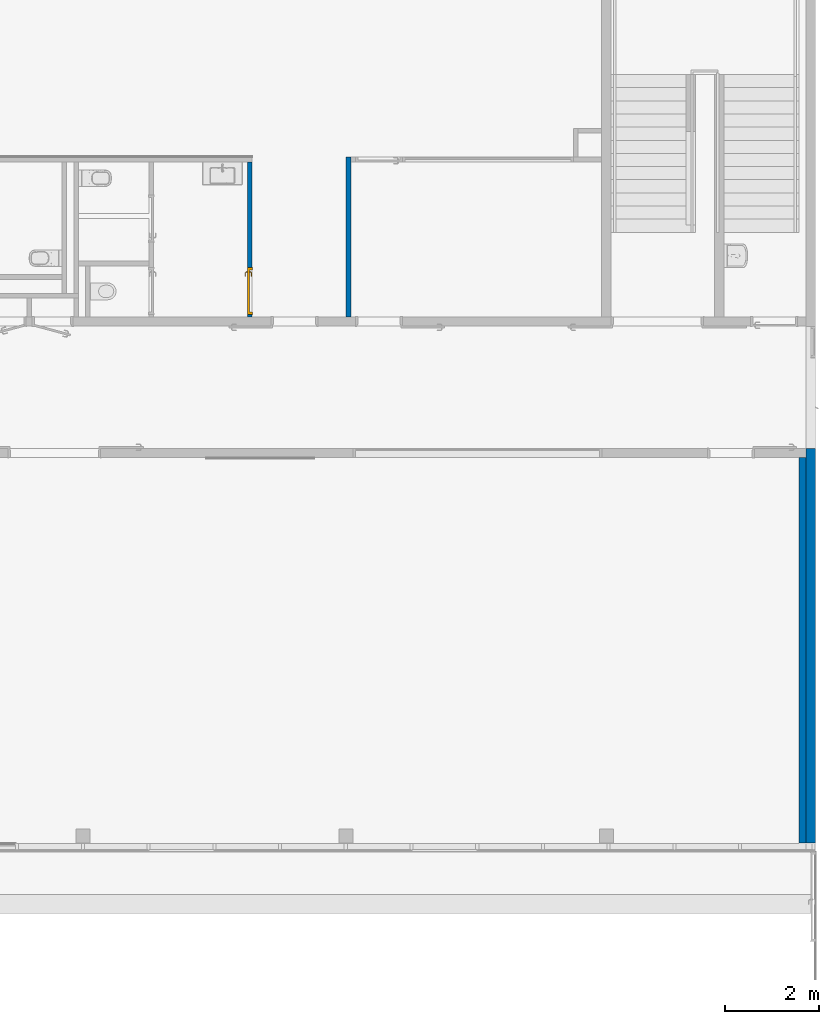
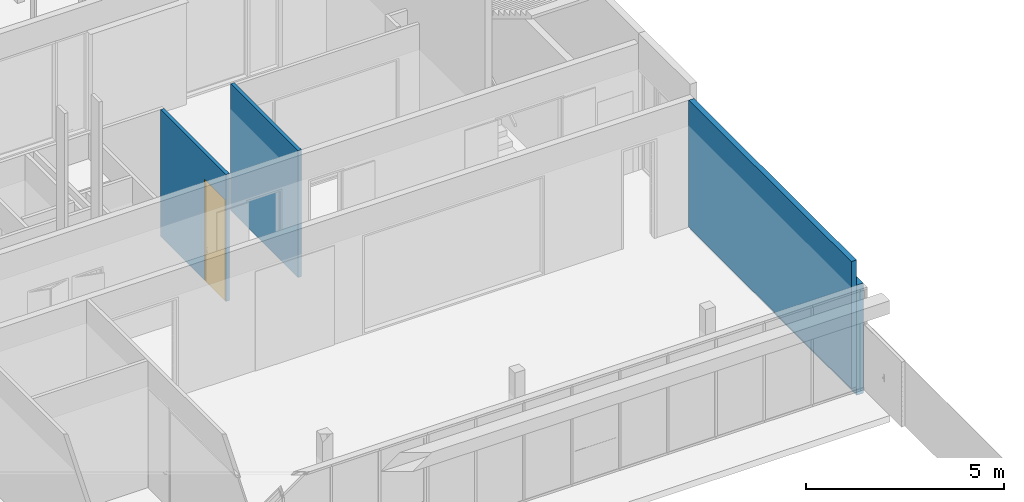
# One storey, part 171 of 240: 4 walls, 1 door, 1 opening.
"""IFC2X3 building model written with IfcOpenShell, lengths in centimetres."""

from ifc_helpers import new_model, entity, si_unit, converted_unit, derived_unit, direction, frame, frame_2d, origin, place, context, subcontext, project, spatial, polyline, rectangle, extrude, clip, bounded_halfspace, faceted_brep, source, transform, mapped, material, material_list, layer, layer_set, layer_usage, type_object, type_shapes, element, fill, save


model = new_model("IFC2X3")

# Units and contexts
model_context = context("Model", 3, precision=0.001, world=origin(), true_north=direction((6.12303176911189e-17, 1.0)))
body_context = subcontext(model_context, "Body", "Model", "MODEL_VIEW")
ifc_project = project(units=[si_unit("LENGTHUNIT", "METRE", prefix="CENTI"), si_unit("AREAUNIT", "SQUARE_METRE"), si_unit("VOLUMEUNIT", "CUBIC_METRE"), converted_unit("PLANEANGLEUNIT", "DEGREE", entity("IfcRatioMeasure", 0.0174532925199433), si_unit("PLANEANGLEUNIT", "RADIAN"), dimensions=[0, 0, 0, 0, 0, 0, 0]), si_unit("MASSUNIT", "GRAM", prefix="KILO"), derived_unit("MASSDENSITYUNIT", [(si_unit("MASSUNIT", "GRAM", prefix="KILO"), 1), (si_unit("LENGTHUNIT", "METRE"), -3)]), si_unit("TIMEUNIT", "SECOND"), si_unit("FREQUENCYUNIT", "HERTZ"), si_unit("THERMODYNAMICTEMPERATUREUNIT", "DEGREE_CELSIUS"), derived_unit("THERMALTRANSMITTANCEUNIT", [(si_unit("MASSUNIT", "GRAM", prefix="KILO"), 1), (si_unit("THERMODYNAMICTEMPERATUREUNIT", "KELVIN"), -1), (si_unit("TIMEUNIT", "SECOND"), -3)]), derived_unit("VOLUMETRICFLOWRATEUNIT", [(si_unit("LENGTHUNIT", "METRE"), 3), (si_unit("TIMEUNIT", "SECOND"), -1)]), si_unit("ELECTRICCURRENTUNIT", "AMPERE"), si_unit("ELECTRICVOLTAGEUNIT", "VOLT"), si_unit("POWERUNIT", "WATT"), si_unit("FORCEUNIT", "NEWTON", prefix="KILO"), si_unit("ILLUMINANCEUNIT", "LUX"), si_unit("LUMINOUSFLUXUNIT", "LUMEN"), si_unit("LUMINOUSINTENSITYUNIT", "CANDELA"), derived_unit("USERDEFINED", [(si_unit("MASSUNIT", "GRAM", prefix="KILO"), -1), (si_unit("LENGTHUNIT", "METRE"), -2), (si_unit("TIMEUNIT", "SECOND"), 3), (si_unit("LUMINOUSFLUXUNIT", "LUMEN"), 1)]), derived_unit("LINEARVELOCITYUNIT", [(si_unit("LENGTHUNIT", "METRE"), 1), (si_unit("TIMEUNIT", "SECOND"), -1)]), si_unit("PRESSUREUNIT", "PASCAL"), derived_unit("USERDEFINED", [(si_unit("LENGTHUNIT", "METRE"), -2), (si_unit("MASSUNIT", "GRAM", prefix="KILO"), 1), (si_unit("TIMEUNIT", "SECOND"), -2)])], contexts=[model_context])

# Site, building, storey
site_placement = place(None, frame((-2781.94577612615, 7442.24238424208, 0.0)))
site = spatial("IfcSite", under=ifc_project, at=site_placement, Name="Default", CompositionType="ELEMENT")
building_placement = place(site_placement, origin())
building = spatial("IfcBuilding", under=site, at=building_placement, CompositionType="ELEMENT")
storey_placement = place(building_placement, origin())
storey = spatial("IfcBuildingStorey", under=building, at=storey_placement, Name="N00 - COO", CompositionType="ELEMENT", Elevation=0.0)

# Walls
ifc_material_1 = material(Name="00 - Isolant")
ifc_layer_1 = layer(ifc_material_1, 14.0)
ifc_material_2 = material(Name="01 - Enduit/Plâtre")
ifc_layer_2 = layer(ifc_material_2, 1.3)
ifc_layer_set_1 = layer_set([ifc_layer_1, ifc_layer_2], Name="Mur de base:04 - Parement -  isolant 14 cm + BA13")
ifc_layer_usage_1 = layer_usage(ifc_layer_set_1, "AXIS2", "NEGATIVE", 7.65)
wall_type_1 = type_object("IfcWallType", Name="Mur de base:04 - Parement -  isolant 14 cm + BA13", PredefinedType="STANDARD", material=ifc_layer_set_1)
wall_1_placement = place(storey_placement, frame((-417.649882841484, -2210.15656731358, 0.0), z_axis=(0.0, 0.0, 1.0), x_axis=(0.0, -1.0, 0.0)))
element("IfcWallStandardCase", 1, at=wall_1_placement, inside=storey, type_object=wall_type_1, material=ifc_layer_usage_1, Name="Mur de base:04 - Parement -  isolant 14 cm + BA13", ObjectType="Mur de base:04 - Parement -  isolant 14 cm + BA13", context=body_context, shape_type="SweptSolid", body=[
    extrude(rectangle(XDim=820.156932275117, YDim=15.3, at=frame_2d((410.078466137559, -1.86517468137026e-14), x_axis=(-1.0, 0.0))), origin(), (0.0, 0.0, 1.0), 391.0),
])
ifc_material_3 = material(Name="01 - Maçonnerie")
ifc_layer_3 = layer(ifc_material_3, 20.0)
ifc_layer_set_2 = layer_set([ifc_layer_3], Name="Mur de base:04 - Structure - béton - 20cm")
ifc_layer_usage_2 = layer_usage(ifc_layer_set_2, "AXIS2", "NEGATIVE", 10.0)
wall_type_2 = type_object("IfcWallType", Name="Mur de base:04 - Structure - béton - 20cm", PredefinedType="STANDARD", material=ifc_layer_set_2)
wall_2_placement = place(building_placement, frame((-399.999882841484, -2190.15656731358, -26.0), z_axis=(0.0, 0.0, 1.0), x_axis=(0.0, -1.0, 0.0)))
element("IfcWallStandardCase", 2, at=wall_2_placement, inside=storey, type_object=wall_type_2, material=ifc_layer_usage_2, Name="Mur de base:04 - Structure - béton - 20cm", ObjectType="Mur de base:04 - Structure - béton - 20cm", context=body_context, shape_type="Clipping", body=[
    clip(extrude(rectangle(XDim=840.156932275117, YDim=20.0, at=frame_2d((420.078466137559, -1.24344978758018e-14), x_axis=(-1.0, 0.0))), origin(), (0.0, 0.0, 1.0), 339.0), bounded_halfspace(frame((0.0, -10.0, 339.0), z_axis=(0.0, 0.0, -1.0), x_axis=(0.0, -1.0, 0.0)), True, frame((0.0, -10.0, 339.0)), polyline([(0.0, 0.0), (840.156932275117, 0.0), (840.156932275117, 20.0), (0.0, 20.0), (0.0, 0.0)]))),
])
ifc_layer_4 = layer(ifc_material_2, 1.3)
ifc_layer_5 = layer(ifc_material_1, 7.4)
ifc_layer_6 = layer(ifc_material_2, 1.3)
ifc_layer_set_3 = layer_set([ifc_layer_4, ifc_layer_5, ifc_layer_6], Name="Mur de base:06 - cloisons - Ba13 10cm")
ifc_layer_usage_3 = layer_usage(ifc_layer_set_3, "AXIS2", "NEGATIVE", 5.0)
wall_type_3 = type_object("IfcWallType", Name="Mur de base:06 - cloisons - Ba13 10cm", PredefinedType="STANDARD", material=ifc_layer_set_3)
wall_3_placement = place(building_placement, frame((-1384.49988284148, -1910.07903364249, 0.0), z_axis=(0.0, 0.0, 1.0), x_axis=(0.0, 1.0, 0.0)))
element("IfcWallStandardCase", 3, at=wall_3_placement, inside=storey, type_object=wall_type_3, material=ifc_layer_usage_3, Name="Mur de base:06 - cloisons - Ba13 10cm", ObjectType="Mur de base:06 - cloisons - Ba13 10cm", context=body_context, shape_type="Clipping", body=[
    clip(extrude(rectangle(XDim=340.079033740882, YDim=9.99999999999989, at=frame_2d((170.039516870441, -5.77315972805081e-15), x_axis=(-1.0, 0.0))), origin(), (0.0, 0.0, 1.0), 391.0), bounded_halfspace(frame((0.0, -5.0, 391.0), z_axis=(0.0, 0.0, -1.0), x_axis=(1.0, 0.0, 0.0)), True, frame((0.0, -5.0, 391.0)), polyline([(0.0, 0.0), (330.079033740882, 0.0), (340.079033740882, 0.0), (340.079033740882, 10.0), (0.0, 10.0), (0.0, 0.0)]))),
])

# Wall, opening, door
ifc_layer_usage_4 = layer_usage(ifc_layer_set_3, "AXIS2", "NEGATIVE", 5.0)
wall_4_placement = place(building_placement, frame((-1594.49988284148, -1580.0, 0.0), z_axis=(0.0, 0.0, 1.0), x_axis=(0.0, -1.0, 0.0)))
wall_4 = element("IfcWallStandardCase", 4, at=wall_4_placement, inside=storey, type_object=wall_type_3, material=ifc_layer_usage_4, Name="Mur de base:06 - cloisons - Ba13 10cm", ObjectType="Mur de base:06 - cloisons - Ba13 10cm", context=body_context, shape_type="Clipping", body=[
    clip(extrude(rectangle(XDim=330.079033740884, YDim=9.99999999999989, at=frame_2d((165.039516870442, -3.33066907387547e-14), x_axis=(-1.0, 0.0))), origin(), (0.0, 0.0, 1.0), 391.0), bounded_halfspace(frame((0.0, -5.0, 391.0), z_axis=(0.0, 0.0, -1.0), x_axis=(-1.0, 0.0, 0.0)), True, frame((0.0, -5.0, 391.0)), polyline([(0.0, 0.0), (330.079033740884, 0.0), (330.079033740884, 10.0), (0.0, 10.0), (0.0, 0.0)]))),
])
opening_placement = place(wall_4_placement, frame((325.079033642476, 5.0, 0.0)))
opening = element("IfcOpeningElement", 5, at=opening_placement, cuts=wall_4, Name="Int. Simple:PP (0.93m x 3.06m):1", ObjectType="Opening", context=body_context, shape_type="SweptSolid", body=[
    extrude(rectangle(XDim=309.500000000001, YDim=99.9999999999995, at=frame_2d((154.750000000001, 49.9999999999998), x_axis=(1.0, 0.0))), frame((0.0, 0.0, 0.0), z_axis=(0.0, -1.0, 0.0), x_axis=(0.0, 0.0, 1.0)), (0.0, 0.0, 1.0), 10.0),
])
ifc_material_4 = material(Name="Finition Peinture - Blanc satiné")
ifc_material_5 = material(Name="Bois - Panneau de porte")
ifc_material_6 = material(Name="Bois - Cadre de porte")
ifc_material_list_1 = material_list([ifc_material_4, ifc_material_5, ifc_material_6])
ifc_material_list_2 = material_list([ifc_material_4, ifc_material_5, ifc_material_6])
door_style = type_object("IfcDoorStyle", Name="PP (0.93m x 3.06m)", ConstructionType="NOTDEFINED", OperationType="SINGLE_SWING_LEFT", ParameterTakesPrecedence=False, Sizeable=False, material=ifc_material_list_2)
shared_shape = source(origin(), body_context, "Body", "Brep", [
    faceted_brep([(10.5352761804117, -0.500000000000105, 86.6003983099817), (11.5000000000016, -0.500000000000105, 87.0), (11.5000000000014, -0.500000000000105, 108.0), (10.5352761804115, -0.500000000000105, 108.399601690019), (9.50000000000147, -0.500000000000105, 108.535898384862), (8.46472381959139, -0.500000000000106, 108.399601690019), (7.50000000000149, -0.500000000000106, 108.0), (7.50000000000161, -0.500000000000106, 87.0), (8.46472381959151, -0.500000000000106, 86.6003983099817), (9.50000000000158, -0.500000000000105, 86.464101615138), (10.5352761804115, 0.0, 108.399601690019), (11.5000000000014, 0.0, 108.0), (11.5000000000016, 0.0, 87.0), (10.5352761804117, 0.0, 86.6003983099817), (9.50000000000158, 0.0, 86.464101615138), (8.46472381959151, 0.0, 86.6003983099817), (7.50000000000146, 0.0, 87.0), (7.50000000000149, 0.0, 108.0), (8.46472381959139, 0.0, 108.399601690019), (9.50000000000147, 0.0, 108.535898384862)], [[[0, 1, 2, 3, 4, 5, 6, 7, 8, 9]], [[10, 11, 12, 13, 14, 15, 16, 17, 18, 19]], [[16, 15, 8, 7]], [[8, 15, 14, 9]], [[14, 13, 0, 9]], [[13, 12, 1, 0]], [[2, 1, 12, 11]], [[11, 10, 3, 2]], [[3, 10, 19, 4]], [[19, 18, 5, 4]], [[18, 17, 6, 5]], [[7, 6, 17, 16]]]),
    faceted_brep([(10.5352761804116, 4.0, 86.6003983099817), (11.5000000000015, 4.0, 87.0), (11.5000000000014, 4.0, 108.0), (10.5352761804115, 4.0, 108.399601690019), (9.50000000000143, 4.0, 108.535898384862), (8.46472381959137, 4.0, 108.399601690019), (7.50000000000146, 4.0, 108.0), (7.50000000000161, 4.0, 87.0), (8.46472381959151, 4.0, 86.6003983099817), (9.50000000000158, 4.0, 86.464101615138), (10.5352761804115, 4.49999999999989, 108.399601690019), (11.5000000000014, 4.49999999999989, 108.0), (11.5000000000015, 4.49999999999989, 87.0), (10.5352761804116, 4.49999999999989, 86.6003983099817), (9.50000000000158, 4.49999999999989, 86.464101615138), (8.46472381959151, 4.49999999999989, 86.6003983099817), (7.50000000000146, 4.49999999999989, 87.0), (7.50000000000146, 4.49999999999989, 108.0), (8.46472381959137, 4.49999999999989, 108.399601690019), (9.50000000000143, 4.49999999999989, 108.535898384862)], [[[0, 1, 2, 3, 4, 5, 6, 7, 8, 9]], [[10, 11, 12, 13, 14, 15, 16, 17, 18, 19]], [[11, 10, 3, 2]], [[3, 10, 19, 4]], [[19, 18, 5, 4]], [[18, 17, 6, 5]], [[7, 6, 17, 16]], [[16, 15, 8, 7]], [[8, 15, 14, 9]], [[14, 13, 0, 9]], [[13, 12, 1, 0]], [[2, 1, 12, 11]]]),
    faceted_brep([(9.29747013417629, -0.500000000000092, 100.778044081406), (9.70252986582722, -0.50000000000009, 100.778044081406), (10.1000000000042, -0.500000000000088, 100.699999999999), (10.1000000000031, -0.500000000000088, 99.3000000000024), (9.7025298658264, -0.50000000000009, 99.2219559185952), (9.29747013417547, -0.500000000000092, 99.221955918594), (8.8999999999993, -0.500000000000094, 99.2999999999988), (8.89999999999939, -0.500000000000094, 100.7), (8.89999999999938, -3.26509507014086, 100.7), (9.29747013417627, -3.10045754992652, 100.778044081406), (10.9023585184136, -4.70534593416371, 100.778044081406), (11.0701397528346, -4.30028620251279, 100.778044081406), (9.7025298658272, -2.93267631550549, 100.778044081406), (10.1000000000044, -2.76803879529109, 100.7), (10.1000000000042, -2.76803879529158, 99.3000000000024), (9.7025298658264, -2.93267631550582, 99.2219559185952), (11.0701397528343, -4.30028620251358, 99.2219559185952), (10.9023585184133, -4.70534593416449, 99.221955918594), (9.29747013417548, -3.10045754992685, 99.221955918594), (8.89999999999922, -3.26509507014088, 99.2999999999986), (10.7377209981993, -5.10281606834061, 100.7), (11.2347772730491, -3.90281606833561, 100.7), (11.2347772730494, -3.90281606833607, 99.3000000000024), (10.7377209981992, -5.10281606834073, 99.2999999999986), (19.5018640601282, -5.10281606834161, 99.2999999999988), (19.5018640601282, -4.70534593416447, 99.221955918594), (19.5018640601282, -4.30028620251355, 99.2219559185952), (19.5018640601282, -3.9028160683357, 99.3000000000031), (19.5018640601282, -3.90281606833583, 100.7), (19.5018640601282, -4.30028620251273, 100.778044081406), (19.5018640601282, -4.70534593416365, 100.778044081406), (19.5018640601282, -5.10281606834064, 100.699999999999), (14.7307697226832, -5.10281606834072, 100.7), (15.2860019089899, -4.5028160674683, 100.78786867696), (15.3683206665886, -3.9028160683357, 100.7), (15.3683206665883, -3.9028160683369, 99.3000000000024), (15.2860018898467, -4.50281607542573, 99.2121313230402), (14.7307700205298, -5.10281606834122, 99.2999999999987)], [[[0, 1, 2, 3, 4, 5, 6, 7]], [[8, 9, 0, 7]], [[9, 10, 11, 12, 1, 0]], [[12, 13, 2, 1]], [[3, 2, 13, 14]], [[14, 15, 4, 3]], [[15, 16, 17, 18, 5, 4]], [[18, 19, 6, 5]], [[7, 6, 19, 8]], [[20, 10, 9, 8]], [[11, 21, 13, 12]], [[14, 13, 21, 22]], [[22, 16, 15, 14]], [[17, 23, 19, 18]], [[8, 19, 23, 20]], [[24, 25, 26, 27, 28, 29, 30, 31]], [[32, 30, 33]], [[31, 30, 32]], [[10, 20, 32]], [[33, 34, 11]], [[21, 11, 34]], [[34, 29, 28]], [[30, 29, 33]], [[29, 34, 33]], [[10, 32, 33]], [[10, 33, 11]], [[22, 21, 34, 28, 27, 35]], [[35, 26, 36]], [[37, 36, 25]], [[22, 35, 16]], [[35, 27, 26]], [[24, 37, 25]], [[23, 17, 37]], [[37, 17, 36]], [[17, 16, 36]], [[16, 35, 36]], [[25, 36, 26]], [[20, 23, 37, 24, 31, 32]]]),
    faceted_brep([(9.29747013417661, 4.49999999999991, 100.778044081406), (8.89999999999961, 4.4999999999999, 100.7), (8.89999999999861, 4.4999999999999, 99.2999999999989), (9.29747013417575, 4.49999999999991, 99.221955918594), (9.70252986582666, 4.49999999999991, 99.2219559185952), (10.1000000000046, 4.49999999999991, 99.3000000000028), (10.1000000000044, 4.49999999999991, 100.7), (9.70252986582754, 4.49999999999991, 100.778044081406), (10.1000000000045, 6.7485204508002, 99.3000000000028), (10.1000000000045, 6.74852045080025, 100.7), (9.70252986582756, 6.91315797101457, 100.778044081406), (11.083890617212, 8.29451872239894, 100.778044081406), (10.916109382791, 8.69957845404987, 100.778044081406), (9.29747013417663, 7.0809392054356, 100.778044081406), (8.89999999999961, 7.24557672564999, 100.7), (8.89999999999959, 7.2455767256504, 99.2999999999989), (9.29747013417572, 7.08093920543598, 99.221955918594), (10.9161093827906, 8.69957845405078, 99.221955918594), (11.0838906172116, 8.29451872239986, 99.2219559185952), (9.70252986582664, 6.91315797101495, 99.2219559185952), (11.2485281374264, 7.89704858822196, 99.3000000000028), (11.2485281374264, 7.89704858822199, 100.7), (10.7514718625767, 9.09704858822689, 100.7), (10.7514718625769, 9.0970485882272, 99.2999999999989), (19.5045783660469, 7.89704858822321, 99.3000000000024), (19.5045783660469, 8.29451872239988, 99.2219559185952), (19.5045783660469, 8.6995784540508, 99.221955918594), (19.5045783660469, 9.09704858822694, 99.2999999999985), (19.5045783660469, 9.09704858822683, 100.7), (19.5045783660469, 8.69957845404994, 100.778044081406), (19.5045783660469, 8.29451872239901, 100.778044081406), (19.5045783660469, 7.89704858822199, 100.7), (15.3765520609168, 7.89704858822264, 99.3000000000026), (15.3765532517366, 7.89704858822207, 100.7), (15.294234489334, 8.49704858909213, 100.78786867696), (14.7445205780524, 9.09704858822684, 100.7), (14.7445204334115, 9.09704858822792, 99.2999999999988), (15.2942345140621, 8.49704858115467, 99.2121313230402)], [[[0, 1, 2, 3, 4, 5, 6, 7]], [[6, 5, 8, 9]], [[9, 10, 7, 6]], [[10, 11, 12, 13, 0, 7]], [[13, 14, 1, 0]], [[2, 1, 14, 15]], [[15, 16, 3, 2]], [[16, 17, 18, 19, 4, 3]], [[19, 8, 5, 4]], [[9, 8, 20, 21]], [[21, 11, 10, 9]], [[12, 22, 14, 13]], [[15, 14, 22, 23]], [[23, 17, 16, 15]], [[18, 20, 8, 19]], [[24, 25, 26, 27, 28, 29, 30, 31]], [[21, 20, 32, 24, 31, 33]], [[33, 30, 34]], [[35, 34, 29]], [[21, 33, 11]], [[33, 31, 30]], [[28, 35, 29]], [[22, 12, 35]], [[35, 12, 34]], [[12, 11, 34]], [[11, 33, 34]], [[29, 34, 30]], [[22, 35, 28, 27, 36, 23]], [[36, 26, 37]], [[27, 26, 36]], [[17, 23, 36]], [[37, 32, 18]], [[20, 18, 32]], [[32, 25, 24]], [[26, 25, 37]], [[25, 32, 37]], [[17, 36, 37]], [[17, 37, 18]]]),
    faceted_brep([(3.50000000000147, 4.0, 306.0), (96.5000000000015, 4.0, 306.0), (96.5000000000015, 4.0, 0.0), (3.50000000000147, 4.0, 0.0), (3.50000000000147, 0.0, 306.0), (3.50000000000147, 0.0, 0.0), (96.5000000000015, 0.0, 0.0), (96.5000000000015, 0.0, 306.0)], [[[0, 1, 2, 3]], [[4, 5, 6, 7]], [[1, 0, 4, 7]], [[2, 1, 7, 6]], [[3, 2, 6, 5]], [[0, 3, 5, 4]]]),
    faceted_brep([(0.0, 10.0, 0.0), (-1.50000000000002, 10.0, 0.0), (-1.50000000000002, 10.5000000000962, 0.0), (5.0, 10.5000000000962, 0.0), (5.0, 4.0, 0.0), (3.50000000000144, 4.0, 0.0), (3.50000000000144, -0.500000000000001, 0.0), (-1.50000000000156, -0.500000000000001, 0.0), (-1.50000000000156, 0.0, 0.0), (0.0, 0.0, 0.0), (0.0, 10.0, 309.500000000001), (100.0, 10.0, 309.500000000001), (100.0, 10.0, 0.0), (101.5, 10.0, 0.0), (101.5, 10.0, 311.0), (-1.50000000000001, 10.0, 311.0), (-1.50000000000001, 10.5000000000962, 311.0), (101.5, 10.5000000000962, 311.0), (101.5, 10.5000000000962, 0.0), (95.0, 10.5000000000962, 0.0), (95.0, 10.5000000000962, 304.5), (5.0, 10.5000000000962, 304.5), (5.0, 4.0, 304.5), (95.0, 4.0, 304.5), (95.0, 4.0, 0.0), (96.4999999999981, 4.0, 0.0), (96.4999999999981, 4.0, 306.0), (3.50000000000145, 4.0, 306.0), (3.50000000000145, -0.500000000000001, 306.0), (96.4999999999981, -0.500000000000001, 306.0), (96.4999999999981, -0.500000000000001, 0.0), (101.500000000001, -0.500000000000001, 0.0), (101.500000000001, -0.500000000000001, 311.0), (-1.50000000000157, -0.500000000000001, 311.0), (-1.50000000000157, 0.0, 311.0), (101.500000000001, 0.0, 311.0), (101.500000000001, 0.0, 0.0), (100.0, 0.0, 0.0), (100.0, 0.0, 309.500000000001), (0.0, 0.0, 309.500000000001)], [[[0, 1, 2, 3, 4, 5, 6, 7, 8, 9]], [[1, 0, 10, 11, 12, 13, 14, 15]], [[2, 1, 15, 16]], [[3, 2, 16, 17, 18, 19, 20, 21]], [[3, 21, 22, 4]], [[5, 4, 22, 23, 24, 25, 26, 27]], [[5, 27, 28, 6]], [[7, 6, 28, 29, 30, 31, 32, 33]], [[8, 7, 33, 34]], [[9, 8, 34, 35, 36, 37, 38, 39]], [[0, 9, 39, 10]], [[11, 38, 37, 12]], [[12, 37, 36, 31, 30, 25, 24, 19, 18, 13]], [[17, 14, 13, 18]], [[23, 20, 19, 24]], [[29, 26, 25, 30]], [[35, 32, 31, 36]], [[16, 15, 14, 17]], [[22, 21, 20, 23]], [[28, 27, 26, 29]], [[34, 33, 32, 35]], [[10, 39, 38, 11]]]),
])
type_shapes(door_style, [shared_shape])
door_placement = place(opening_placement, frame((-100.0, -10.0, 0.0)))
door = element("IfcDoor", 6, at=door_placement, inside=storey, type_object=door_style, material=ifc_material_list_1, Name="Int. Simple:PP (0.93m x 3.06m)", ObjectType="Int. Simple:PP (0.93m x 3.06m)", OverallHeight=309.500000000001, OverallWidth=99.9999999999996, context=body_context, shape_type="MappedRepresentation", body=[
    mapped(shared_shape, transform((0.0, 0.0, 0.0), scale=1.0)),
])
fill(opening, door)

save(model, "model.ifc")
